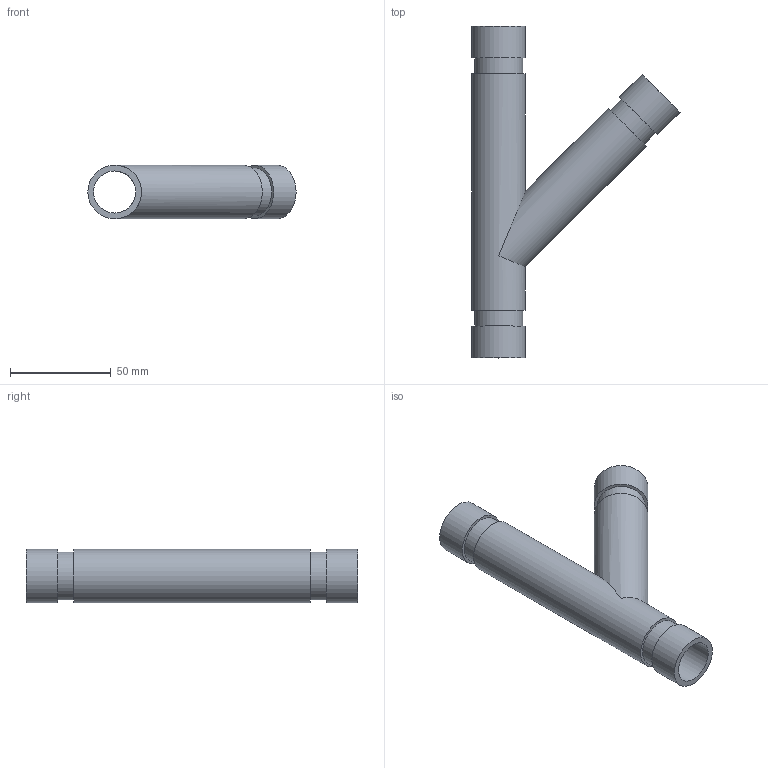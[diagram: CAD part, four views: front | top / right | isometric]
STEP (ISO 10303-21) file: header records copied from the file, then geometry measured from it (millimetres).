
FILE_DESCRIPTION(/* description */ ('VIC 45 DEG FABRICATED LATERAL No 30 SWS (OGS)','CAx-IF Rec.Pracs.---Representation and Presentation of Product Manufacturing Information (PMI)---4.0---2014-10-13'),/* implementation_level */ '2;1');
FILE_NAME(/* name */ 'C:\Users\kkamble\AppData\Roaming\Autodesk\ApplicationPlugins\Back Up\Victaulic_IPS_Lateral 45 Deg_No 30 SWS (OGS)\Victaulic_IPS_Lateral 45 Deg_No 30 SWS (OGS)_0.75 (20).stp',/* time_stamp */ '2020-09-16T22:20:14+06:00',/* author */ ('cgray'),/* organization */ ('Victaulic'),/* preprocessor_version */ 'ST-DEVELOPER v17.2',/* originating_system */ 'Autodesk Inventor 2019',/* authorisation */ '');
FILE_SCHEMA (('AP242_MANAGED_MODEL_BASED_3D_ENGINEERING_MIM_LF { 1 0 10303 442 1 1 4 }'));
Length unit declared in the file: inch
Products named in the file (1): 30 SWS-0.75
Bounding box: 103.59 x 165.1 x 26.67 mm (x, y, z)
Volume: 52648.5 mm3; surface area: 39637.8 mm2
Topology: 1 solids, 1 shells, 19 faces, 45 edges, 34 vertices
Faces by surface type: cylinder 10, plane 9
Full cylindrical faces by diameter (mm): 20.93 x2, 23.825 x3, 26.67 x5
Entity records: 748 total; most frequent: DIRECTION 145, CARTESIAN_POINT 116, ORIENTED_EDGE 90, AXIS2_PLACEMENT_3D 67, EDGE_CURVE 45, VERTEX_POINT 34, EDGE_LOOP 29, CIRCLE 27
